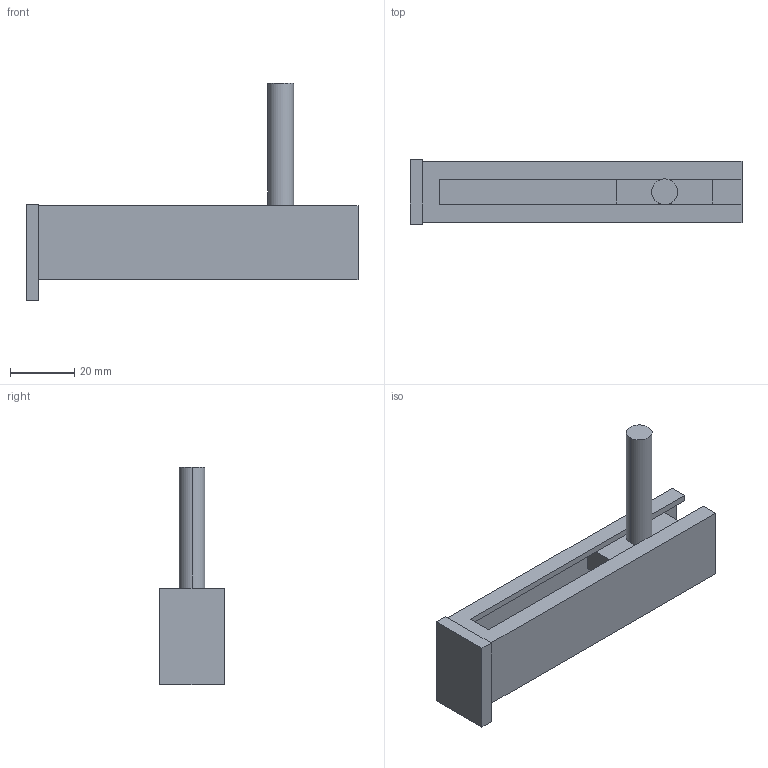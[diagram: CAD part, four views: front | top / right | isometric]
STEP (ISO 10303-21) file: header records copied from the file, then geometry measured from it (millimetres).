
FILE_DESCRIPTION(('STEP AP242'),'1');
FILE_NAME('OPO_65.082.72.stp','2026-01-30T20:56:09',(' '),(' '),'Spatial InterOp 3D',' ',' ');
FILE_SCHEMA(('AP242_MANAGED_MODEL_BASED_3D_ENGINEERING_MIM_LF {1 0 10303 442 1 1 4}'));
Length unit declared in the file: millimetre
Products named in the file (1): 1
Bounding box: 103 x 20 x 67.5 mm (x, y, z)
Volume: 27209.6 mm3; surface area: 18215.8 mm2
Topology: 4 solids, 4 shells, 72 faces, 178 edges, 118 vertices
Faces by surface type: plane 50, cylinder 22
Entity records: 2734 total; most frequent: DIRECTION 374, CARTESIAN_POINT 372, ORIENTED_EDGE 356, EDGE_CURVE 178, LINE 134, VECTOR 134, AXIS2_PLACEMENT_3D 120, VERTEX_POINT 118
